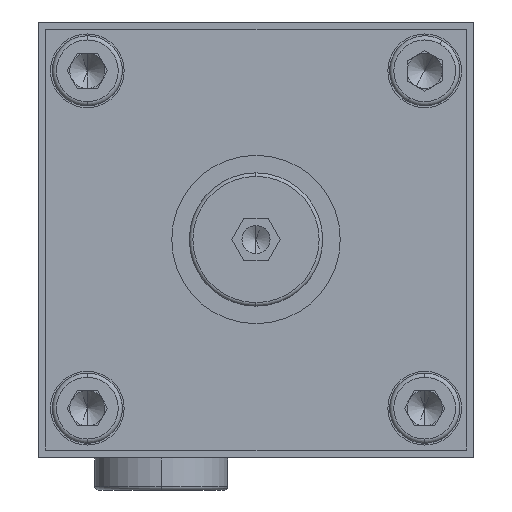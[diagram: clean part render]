
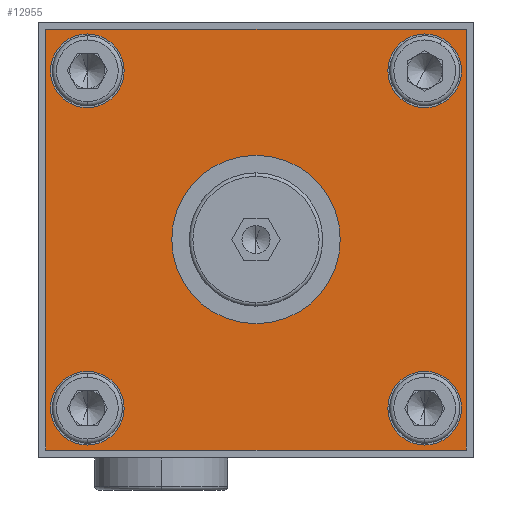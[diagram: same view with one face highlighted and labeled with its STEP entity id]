
A CAD part, left-side view. The second image highlights one B-rep face of the part: STEP entity #12955.
In plain terms, the highlighted planar face has unit normal (-1, 0, 0).
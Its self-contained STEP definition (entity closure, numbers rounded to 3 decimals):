
#43 = FACE_OUTER_BOUND ( 'NONE', #2044, .T. ) ;
#100 = AXIS2_PLACEMENT_3D ( 'NONE', #20590, #10964, #1349 ) ;
#141 = LINE ( 'NONE', #4105, #8645 ) ;
#177 = CARTESIAN_POINT ( 'NONE',  ( -17.8, -24.04, 29.29 ) ) ;
#543 = DIRECTION ( 'NONE',  ( -1., 0., 0. ) ) ;
#855 = DIRECTION ( 'NONE',  ( 0., 0., 1. ) ) ;
#988 = DIRECTION ( 'NONE',  ( 0., 0., 1. ) ) ;
#1039 = FACE_BOUND ( 'NONE', #11464, .T. ) ;
#1081 = CARTESIAN_POINT ( 'NONE',  ( -17.8, 24.04, -29.29 ) ) ;
#1145 = CARTESIAN_POINT ( 'NONE',  ( -17.8, -24.04, -29.29 ) ) ;
#1258 = ORIENTED_EDGE ( 'NONE', *, *, #15904, .T. ) ;
#1349 = DIRECTION ( 'NONE',  ( 0., 0., 1. ) ) ;
#1392 = DIRECTION ( 'NONE',  ( 0., -1., 0. ) ) ;
#1603 = AXIS2_PLACEMENT_3D ( 'NONE', #11748, #2085, #13362 ) ;
#2044 = EDGE_LOOP ( 'NONE', ( #6685, #11874, #17705, #1258 ) ) ;
#2085 = DIRECTION ( 'NONE',  ( -1., 0., 0. ) ) ;
#2744 = AXIS2_PLACEMENT_3D ( 'NONE', #6717, #17994, #8379 ) ;
#3138 = VECTOR ( 'NONE', #15109, 1000. ) ;
#3244 = ORIENTED_EDGE ( 'NONE', *, *, #19906, .F. ) ;
#3360 = VECTOR ( 'NONE', #3370, 1000. ) ;
#3370 = DIRECTION ( 'NONE',  ( 0., -1., 0. ) ) ;
#3640 = CIRCLE ( 'NONE', #4819, 5.25 ) ;
#3758 = DIRECTION ( 'NONE',  ( -1., 0., 0. ) ) ;
#3887 = VECTOR ( 'NONE', #855, 1000. ) ;
#4023 = DIRECTION ( 'NONE',  ( 0., 0., 1. ) ) ;
#4105 = CARTESIAN_POINT ( 'NONE',  ( -17.8, 30., -30. ) ) ;
#4286 = FACE_BOUND ( 'NONE', #11327, .T. ) ;
#4531 = ORIENTED_EDGE ( 'NONE', *, *, #6007, .F. ) ;
#4819 = AXIS2_PLACEMENT_3D ( 'NONE', #16769, #7077, #18335 ) ;
#4904 = AXIS2_PLACEMENT_3D ( 'NONE', #15136, #5479, #16766 ) ;
#5160 = ORIENTED_EDGE ( 'NONE', *, *, #9777, .F. ) ;
#5456 = CARTESIAN_POINT ( 'NONE',  ( -17.8, -30., -30. ) ) ;
#5467 = CIRCLE ( 'NONE', #2744, 5.25 ) ;
#5479 = DIRECTION ( 'NONE',  ( -1., 0., 0. ) ) ;
#5983 = VERTEX_POINT ( 'NONE', #14902 ) ;
#6007 = EDGE_CURVE ( 'NONE', #5983, #6256, #7346, .T. ) ;
#6256 = VERTEX_POINT ( 'NONE', #14181 ) ;
#6278 = DIRECTION ( 'NONE',  ( -1., 0., 0. ) ) ;
#6685 = ORIENTED_EDGE ( 'NONE', *, *, #16821, .T. ) ;
#6717 = CARTESIAN_POINT ( 'NONE',  ( -17.8, -24.04, 24.04 ) ) ;
#6736 = VERTEX_POINT ( 'NONE', #9848 ) ;
#6977 = VERTEX_POINT ( 'NONE', #16487 ) ;
#7077 = DIRECTION ( 'NONE',  ( -1., 0., 0. ) ) ;
#7242 = CARTESIAN_POINT ( 'NONE',  ( -17.8, -24.04, -18.79 ) ) ;
#7327 = VERTEX_POINT ( 'NONE', #7867 ) ;
#7346 = CIRCLE ( 'NONE', #1603, 12. ) ;
#7611 = LINE ( 'NONE', #14604, #3360 ) ;
#7764 = DIRECTION ( 'NONE',  ( -1., 0., 0. ) ) ;
#7867 = CARTESIAN_POINT ( 'NONE',  ( -17.8, 30., 30. ) ) ;
#8155 = LINE ( 'NONE', #12109, #3887 ) ;
#8379 = DIRECTION ( 'NONE',  ( 0., 0., 1. ) ) ;
#8539 = FACE_BOUND ( 'NONE', #18979, .T. ) ;
#8645 = VECTOR ( 'NONE', #4023, 1000. ) ;
#9311 = VERTEX_POINT ( 'NONE', #19257 ) ;
#9361 = ORIENTED_EDGE ( 'NONE', *, *, #14256, .F. ) ;
#9777 = EDGE_CURVE ( 'NONE', #15726, #6736, #16645, .T. ) ;
#9848 = CARTESIAN_POINT ( 'NONE',  ( -17.8, -24.04, 18.79 ) ) ;
#10145 = CARTESIAN_POINT ( 'NONE',  ( -17.8, 0., 0. ) ) ;
#10275 = CIRCLE ( 'NONE', #18334, 5.25 ) ;
#10288 = ORIENTED_EDGE ( 'NONE', *, *, #11726, .F. ) ;
#10605 = DIRECTION ( 'NONE',  ( -1., 0., 0. ) ) ;
#10935 = PLANE ( 'NONE',  #13489 ) ;
#10964 = DIRECTION ( 'NONE',  ( -1., 0., 0. ) ) ;
#10997 = DIRECTION ( 'NONE',  ( -1., 0., 0. ) ) ;
#11327 = EDGE_LOOP ( 'NONE', ( #20432, #4531 ) ) ;
#11464 = EDGE_LOOP ( 'NONE', ( #19833, #3244 ) ) ;
#11726 = EDGE_CURVE ( 'NONE', #19329, #20633, #3640, .T. ) ;
#11748 = CARTESIAN_POINT ( 'NONE',  ( -17.8, 0., 0. ) ) ;
#11781 = EDGE_CURVE ( 'NONE', #12158, #7327, #141, .T. ) ;
#11801 = DIRECTION ( 'NONE',  ( 0., -1., 0. ) ) ;
#11804 = CARTESIAN_POINT ( 'NONE',  ( -17.8, 24.04, -18.79 ) ) ;
#11863 = EDGE_LOOP ( 'NONE', ( #12128, #19098 ) ) ;
#11868 = CARTESIAN_POINT ( 'NONE',  ( -17.8, -30., 30. ) ) ;
#11874 = ORIENTED_EDGE ( 'NONE', *, *, #16220, .F. ) ;
#12109 = CARTESIAN_POINT ( 'NONE',  ( -17.8, -30., -30. ) ) ;
#12128 = ORIENTED_EDGE ( 'NONE', *, *, #15074, .F. ) ;
#12158 = VERTEX_POINT ( 'NONE', #14978 ) ;
#12880 = FACE_BOUND ( 'NONE', #11863, .T. ) ;
#12955 = ADVANCED_FACE ( 'NONE', ( #1039, #8539, #17129, #12880, #4286, #43 ), #10935, .T. ) ;
#13289 = VERTEX_POINT ( 'NONE', #11868 ) ;
#13302 = CARTESIAN_POINT ( 'NONE',  ( -17.8, -30., -30. ) ) ;
#13362 = DIRECTION ( 'NONE',  ( 0., -1., 0. ) ) ;
#13420 = CARTESIAN_POINT ( 'NONE',  ( -17.8, 24.04, -24.04 ) ) ;
#13489 = AXIS2_PLACEMENT_3D ( 'NONE', #20628, #10997, #1392 ) ;
#14181 = CARTESIAN_POINT ( 'NONE',  ( -17.8, -12., 0. ) ) ;
#14256 = EDGE_CURVE ( 'NONE', #20633, #19329, #16397, .T. ) ;
#14284 = AXIS2_PLACEMENT_3D ( 'NONE', #20232, #10605, #988 ) ;
#14581 = EDGE_CURVE ( 'NONE', #14582, #17814, #10275, .T. ) ;
#14582 = VERTEX_POINT ( 'NONE', #11804 ) ;
#14604 = CARTESIAN_POINT ( 'NONE',  ( -17.8, -30., 30. ) ) ;
#14636 = ORIENTED_EDGE ( 'NONE', *, *, #15048, .F. ) ;
#14902 = CARTESIAN_POINT ( 'NONE',  ( -17.8, 12., 0. ) ) ;
#14978 = CARTESIAN_POINT ( 'NONE',  ( -17.8, 30., -30. ) ) ;
#15009 = DIRECTION ( 'NONE',  ( 0., 0., 1. ) ) ;
#15048 = EDGE_CURVE ( 'NONE', #6736, #15726, #5467, .T. ) ;
#15074 = EDGE_CURVE ( 'NONE', #6977, #9311, #17797, .T. ) ;
#15109 = DIRECTION ( 'NONE',  ( 0., -1., 0. ) ) ;
#15136 = CARTESIAN_POINT ( 'NONE',  ( -17.8, 24.04, 24.04 ) ) ;
#15144 = EDGE_LOOP ( 'NONE', ( #9361, #10288 ) ) ;
#15430 = CIRCLE ( 'NONE', #18269, 12. ) ;
#15726 = VERTEX_POINT ( 'NONE', #177 ) ;
#15835 = VERTEX_POINT ( 'NONE', #13302 ) ;
#15904 = EDGE_CURVE ( 'NONE', #12158, #15835, #19705, .T. ) ;
#15973 = CARTESIAN_POINT ( 'NONE',  ( -17.8, 24.04, 24.04 ) ) ;
#16220 = EDGE_CURVE ( 'NONE', #7327, #13289, #7611, .T. ) ;
#16316 = CIRCLE ( 'NONE', #17925, 5.25 ) ;
#16397 = CIRCLE ( 'NONE', #17022, 5.25 ) ;
#16487 = CARTESIAN_POINT ( 'NONE',  ( -17.8, 24.04, 29.29 ) ) ;
#16645 = CIRCLE ( 'NONE', #100, 5.25 ) ;
#16766 = DIRECTION ( 'NONE',  ( 0., 0., 1. ) ) ;
#16769 = CARTESIAN_POINT ( 'NONE',  ( -17.8, -24.04, -24.04 ) ) ;
#16821 = EDGE_CURVE ( 'NONE', #15835, #13289, #8155, .T. ) ;
#17022 = AXIS2_PLACEMENT_3D ( 'NONE', #17422, #7764, #19008 ) ;
#17129 = FACE_BOUND ( 'NONE', #15144, .T. ) ;
#17159 = EDGE_CURVE ( 'NONE', #6256, #5983, #15430, .T. ) ;
#17422 = CARTESIAN_POINT ( 'NONE',  ( -17.8, -24.04, -24.04 ) ) ;
#17549 = DIRECTION ( 'NONE',  ( 0., 0., 1. ) ) ;
#17705 = ORIENTED_EDGE ( 'NONE', *, *, #11781, .F. ) ;
#17797 = CIRCLE ( 'NONE', #4904, 5.25 ) ;
#17814 = VERTEX_POINT ( 'NONE', #1081 ) ;
#17925 = AXIS2_PLACEMENT_3D ( 'NONE', #15973, #6278, #17549 ) ;
#17994 = DIRECTION ( 'NONE',  ( -1., 0., 0. ) ) ;
#18269 = AXIS2_PLACEMENT_3D ( 'NONE', #10145, #543, #11801 ) ;
#18334 = AXIS2_PLACEMENT_3D ( 'NONE', #13420, #3758, #15009 ) ;
#18335 = DIRECTION ( 'NONE',  ( 0., 0., 1. ) ) ;
#18408 = EDGE_CURVE ( 'NONE', #9311, #6977, #16316, .T. ) ;
#18979 = EDGE_LOOP ( 'NONE', ( #5160, #14636 ) ) ;
#19008 = DIRECTION ( 'NONE',  ( 0., 0., 1. ) ) ;
#19098 = ORIENTED_EDGE ( 'NONE', *, *, #18408, .F. ) ;
#19257 = CARTESIAN_POINT ( 'NONE',  ( -17.8, 24.04, 18.79 ) ) ;
#19321 = CIRCLE ( 'NONE', #14284, 5.25 ) ;
#19329 = VERTEX_POINT ( 'NONE', #1145 ) ;
#19705 = LINE ( 'NONE', #5456, #3138 ) ;
#19833 = ORIENTED_EDGE ( 'NONE', *, *, #14581, .F. ) ;
#19906 = EDGE_CURVE ( 'NONE', #17814, #14582, #19321, .T. ) ;
#20232 = CARTESIAN_POINT ( 'NONE',  ( -17.8, 24.04, -24.04 ) ) ;
#20432 = ORIENTED_EDGE ( 'NONE', *, *, #17159, .F. ) ;
#20590 = CARTESIAN_POINT ( 'NONE',  ( -17.8, -24.04, 24.04 ) ) ;
#20628 = CARTESIAN_POINT ( 'NONE',  ( -17.8, -30., -30. ) ) ;
#20633 = VERTEX_POINT ( 'NONE', #7242 ) ;
